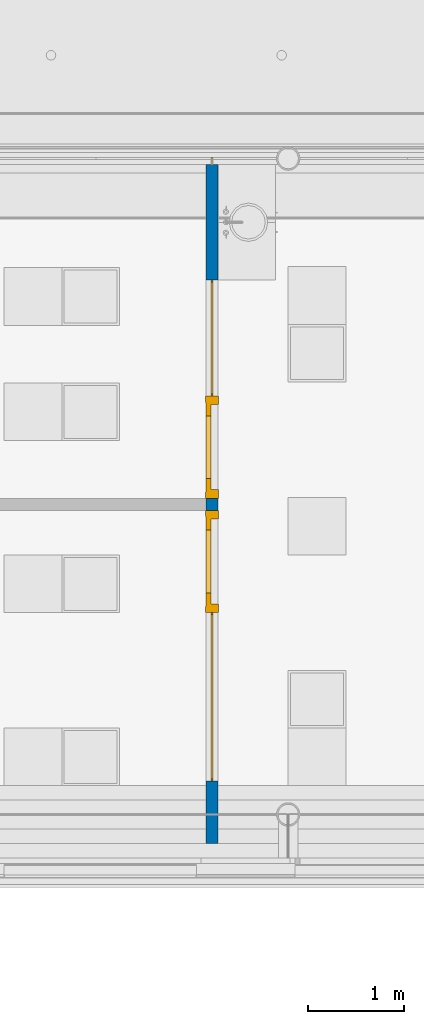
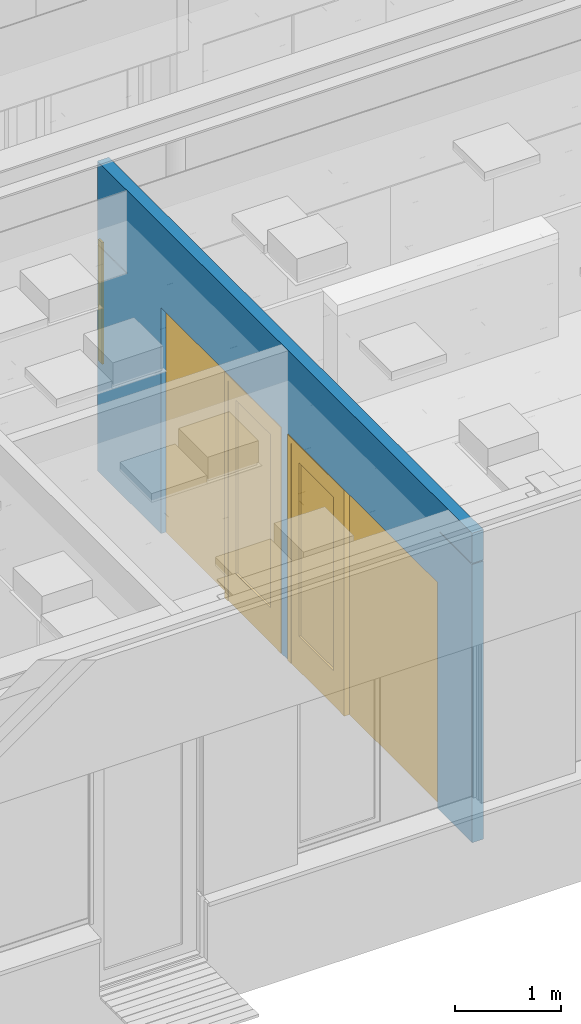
# One storey, part 41 of 347: 3 windows, 2 doors, 1 wall, 5 openings.
"""IFC2X3 building model written with IfcOpenShell, lengths in millimetres."""

from ifc_helpers import new_model, entity, si_unit, converted_unit, derived_unit, money_unit, direction, frame, origin_with_axes, place, context, subcontext, project, spatial, open_shell, faceted_brep, surface_model, source, transform, mapped, material, type_object, type_shapes, element, fill, save


model = new_model("IFC2X3")

# Units and contexts
model_context = context("Model", 3, precision=0.01, world=origin_with_axes(), true_north=direction((0.0, 1.0)))
plan_context = context("Plan", 3, precision=0.01, world=origin_with_axes(), true_north=direction((0.0, 1.0)))
body_context = subcontext(model_context, "Body", "Model", "MODEL_VIEW")
ifc_project = project(units=[si_unit("LENGTHUNIT", "METRE", prefix="MILLI"), si_unit("AREAUNIT", "SQUARE_METRE"), si_unit("VOLUMEUNIT", "CUBIC_METRE"), converted_unit("PLANEANGLEUNIT", "DEGREE", entity("IfcPlaneAngleMeasure", 0.0174532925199), si_unit("PLANEANGLEUNIT", "RADIAN"), dimensions=[0, 0, 0, 0, 0, 0, 0]), money_unit("EUR"), converted_unit("TIMEUNIT", "Year", entity("IfcTimeMeasure", 31556926.0), si_unit("TIMEUNIT", "SECOND"), dimensions=[0, 0, 1, 0, 0, 0, 0]), si_unit("MASSUNIT", "GRAM", prefix="KILO"), si_unit("THERMODYNAMICTEMPERATUREUNIT", "DEGREE_CELSIUS"), si_unit("LUMINOUSINTENSITYUNIT", "LUMEN"), si_unit("ENERGYUNIT", "JOULE", prefix="MEGA"), derived_unit("THERMALCONDUCTANCEUNIT", [(si_unit("POWERUNIT", "WATT"), 1), (si_unit("LENGTHUNIT", "METRE"), -1), (si_unit("THERMODYNAMICTEMPERATUREUNIT", "KELVIN"), -1)]), derived_unit("SPECIFICHEATCAPACITYUNIT", [(si_unit("ENERGYUNIT", "JOULE"), 1), (si_unit("MASSUNIT", "GRAM", prefix="KILO"), -1), (si_unit("THERMODYNAMICTEMPERATUREUNIT", "KELVIN"), -1)]), derived_unit("MASSDENSITYUNIT", [(si_unit("MASSUNIT", "GRAM", prefix="KILO"), 1), (si_unit("VOLUMEUNIT", "CUBIC_METRE"), -1)])], contexts=[model_context, plan_context])

# Site, building, storey
site_placement = place(None, origin_with_axes())
site = spatial("IfcSite", under=ifc_project, at=site_placement, Name="Site", CompositionType="ELEMENT")
building_placement = place(site_placement, origin_with_axes())
building = spatial("IfcBuilding", under=site, at=building_placement, Name="Naam gebouw", CompositionType="ELEMENT")
storey_placement = place(building_placement, origin_with_axes())
storey = spatial("IfcBuildingStorey", under=building, at=storey_placement, Name="begane grond", CompositionType="ELEMENT", Elevation=0.0)

# Wall, openings, windows, doors
ifc_material = material(Name="ALG - LICHTE SCHEIDINGSWAND")
wall_type = type_object("IfcWallType", Name="ALG LSW 125 125", PredefinedType="NOTDEFINED")
wall_placement = place(storey_placement, frame((17650.0, 12125.0, 0.0), z_axis=(0.0, 0.0, 1.0), x_axis=(0.0, -1.0, 0.0)))
wall = element("IfcWall", 1, at=wall_placement, inside=storey, type_object=wall_type, material=ifc_material, Name="22_GF 125 ECO DGS/2.75.3A", context=body_context, shape_type="Brep", body=[
    faceted_brep([(3660.0, 125.0, 0.0), (3535.0, 125.0, 0.0), (3535.0, 125.0, 2600.0), (2471.0, 125.0, 2600.0), (1262.5, 125.0, 2600.0), (1262.5, 125.0, 0.0), (62.5, 125.0, 0.0), (62.5, 125.0, 2600.0), (625.00002799, 125.0, 2600.0), (625.00002799, 125.0, 2612.0), (62.5, 125.0, 2612.0), (62.5, 125.0, 3560.0), (7125.00000221, 125.0, 3560.0), (7125.00002799, 125.0, 3212.0), (6525.00002799, 125.0, 3212.0), (6525.00002799, 125.0, 3200.0), (7125.00002799, 125.0, 3200.0), (7125.00000221, 125.0, 0.0), (6474.0, 125.0, 0.0), (6474.0, 125.0, 2600.0), (4724.0, 125.0, 2600.0), (3660.0, 125.0, 2600.0), (3660.0, 0.0, 0.0), (3535.0, 0.0, 0.0), (3535.0, 0.0, 2600.0), (2471.0, 0.0, 2600.0), (1262.5, 0.0, 2600.0), (1262.5, 0.0, 0.0), (62.5, 0.0, 0.0), (62.5, 0.0, 2600.0), (625.00002799, 0.0, 2600.0), (625.00002799, 0.0, 2612.0), (62.5, 0.0, 2612.0), (62.5, 0.0, 3560.0), (7125.00000221, 0.0, 3560.0), (7125.00002799, 0.0, 3212.0), (6525.00002799, 0.0, 3212.0), (6525.00002799, 0.0, 3200.0), (7125.00002799, 0.0, 3200.0), (7125.00000221, 0.0, 0.0), (6474.0, 0.0, 0.0), (6474.0, 0.0, 2600.0), (4724.0, 0.0, 2600.0), (3660.0, 0.0, 2600.0)], [[[0, 1, 2, 3, 4, 5, 6, 7, 8, 9, 10, 11, 12, 13, 14, 15, 16, 17, 18, 19, 20, 21]], [[22, 23, 1, 0]], [[24, 2, 1, 23]], [[24, 25, 3, 2]], [[4, 3, 25, 26]], [[27, 5, 4, 26]], [[28, 6, 5, 27]], [[29, 7, 6, 28]], [[8, 7, 29, 30]], [[9, 8, 30, 31]], [[32, 10, 9, 31]], [[10, 32, 33, 11]], [[33, 34, 12, 11]], [[35, 13, 12, 34]], [[14, 13, 35, 36]], [[15, 14, 36, 37]], [[16, 15, 37, 38]], [[16, 38, 39, 17]], [[39, 40, 18, 17]], [[18, 40, 41, 19]], [[42, 20, 19, 41]], [[21, 20, 42, 43]], [[0, 21, 43, 22]], [[25, 24, 23, 22, 43, 42, 41, 40, 39, 38, 37, 36, 35, 34, 33, 32, 31, 30, 29, 28, 27, 26]]]),
])
opening_1_placement = place(wall_placement, frame((5599.0, 0.0, 0.0), z_axis=(0.0, 0.0, 1.0), x_axis=(1.0, 0.0, 0.0)))
opening_1 = element("IfcOpeningElement", 2, at=opening_1_placement, cuts=wall, Name="32_10.05", context=body_context, shape_type="Brep", body=[
    faceted_brep([(-875.0, 72.5, 2600.0), (-875.0, 72.5, 0.0), (-875.0, -125.0, 0.0), (-875.0, -125.0, 2600.0), (875.0, 72.5, 2600.0), (875.0, 72.5, 0.0), (875.0, -125.0, 0.0), (875.0, -125.0, 2600.0)], [[[0, 1, 2, 3]], [[0, 4, 5, 1]], [[1, 5, 6, 2]], [[3, 2, 6, 7]], [[4, 0, 3, 7]], [[5, 4, 7, 6]]]),
    faceted_brep([(-875.0, 72.5, 0.0), (-875.0, 72.5, 2600.0), (-875.0, 250.0, 2600.0), (-875.0, 250.0, 0.0), (875.0, 72.5, 0.0), (875.0, 72.5, 2600.0), (875.0, 250.0, 2600.0), (875.0, 250.0, 0.0)], [[[0, 1, 2, 3]], [[0, 4, 5, 1]], [[1, 5, 6, 2]], [[3, 2, 6, 7]], [[4, 0, 3, 7]], [[5, 4, 7, 6]]]),
])
opening_2_placement = place(wall_placement, frame((26.25, 0.0, 1200.0), z_axis=(0.0, 0.0, 1.0), x_axis=(1.0, 0.0, 0.0)))
opening_2 = element("IfcOpeningElement", 3, at=opening_2_placement, cuts=wall, Name="31_11.13", context=body_context, shape_type="Brep", body=[
    faceted_brep([(36.25, 52.5, 1400.0), (36.25, 52.5, 0.0), (36.25, 250.0, 0.0), (36.25, 250.0, 1400.0), (-36.25, 52.5, 1400.0), (-36.25, 52.5, 0.0), (-36.25, 250.0, 0.0), (-36.25, 250.0, 1400.0)], [[[0, 1, 2, 3]], [[0, 4, 5, 1]], [[1, 5, 6, 2]], [[3, 2, 6, 7]], [[4, 0, 3, 7]], [[5, 4, 7, 6]]]),
    faceted_brep([(36.25, 52.5, 0.0), (36.25, 52.5, 1400.0), (36.25, -125.0, 1400.0), (36.25, -125.0, 0.0), (-36.25, 52.5, 0.0), (-36.25, 52.5, 1400.0), (-36.25, -125.0, 1400.0), (-36.25, -125.0, 0.0)], [[[0, 1, 2, 3]], [[0, 4, 5, 1]], [[1, 5, 6, 2]], [[3, 2, 6, 7]], [[4, 0, 3, 7]], [[5, 4, 7, 6]]]),
])
opening_3_placement = place(wall_placement, frame((1866.75, 0.0, 0.0), z_axis=(0.0, 0.0, 1.0), x_axis=(1.0, 0.0, 0.0)))
opening_3 = element("IfcOpeningElement", 4, at=opening_3_placement, cuts=wall, Name="32_10.19", context=body_context, shape_type="Brep", body=[
    faceted_brep([(604.25, 72.5, 0.0), (604.25, 72.5, 2600.0), (604.25, -125.0, 2600.0), (604.25, -125.0, 0.0), (-604.25, 72.5, 0.0), (-604.25, 72.5, 2600.0), (-604.25, -125.0, 2600.0), (-604.25, -125.0, 0.0)], [[[0, 1, 2, 3]], [[0, 4, 5, 1]], [[1, 5, 6, 2]], [[3, 2, 6, 7]], [[4, 0, 3, 7]], [[5, 4, 7, 6]]]),
    faceted_brep([(604.25, 72.5, 2600.0), (604.25, 72.5, 0.0), (604.25, 250.0, 0.0), (604.25, 250.0, 2600.0), (-604.25, 72.5, 2600.0), (-604.25, 72.5, 0.0), (-604.25, 250.0, 0.0), (-604.25, 250.0, 2600.0)], [[[0, 1, 2, 3]], [[0, 4, 5, 1]], [[1, 5, 6, 2]], [[3, 2, 6, 7]], [[4, 0, 3, 7]], [[5, 4, 7, 6]]]),
])
opening_4_placement = place(wall_placement, frame((4192.0, 0.0, 0.0), z_axis=(0.0, 0.0, 1.0), x_axis=(1.0, 0.0, 0.0)))
opening_4 = element("IfcOpeningElement", 5, at=opening_4_placement, cuts=wall, Name="32_02.01", context=body_context, shape_type="Brep", body=[
    faceted_brep([(-532.0, -125.0, 0.0), (-532.0, -125.0, 2600.0), (-532.0, 257.0, 2600.0), (-532.0, 257.0, 0.0), (532.0, -125.0, 0.0), (532.0, -125.0, 2600.0), (532.0, 257.0, 2600.0), (532.0, 257.0, 0.0)], [[[0, 1, 2, 3]], [[0, 4, 5, 1]], [[1, 5, 6, 2]], [[3, 2, 6, 7]], [[4, 0, 3, 7]], [[5, 4, 7, 6]]]),
])
opening_5_placement = place(wall_placement, frame((3003.0, 0.0, 0.0), z_axis=(0.0, 0.0, 1.0), x_axis=(1.0, 0.0, 0.0)))
opening_5 = element("IfcOpeningElement", 6, at=opening_5_placement, cuts=wall, Name="32_01.01", context=body_context, shape_type="Brep", body=[
    faceted_brep([(532.0, 257.0, 0.0), (532.0, 257.0, 2600.0), (532.0, -125.0, 2600.0), (532.0, -125.0, 0.0), (-532.0, 257.0, 0.0), (-532.0, 257.0, 2600.0), (-532.0, -125.0, 2600.0), (-532.0, -125.0, 0.0)], [[[0, 1, 2, 3]], [[0, 4, 5, 1]], [[1, 5, 6, 2]], [[3, 2, 6, 7]], [[4, 0, 3, 7]], [[5, 4, 7, 6]]]),
])
window_style = type_object("IfcWindowStyle", Name="R1 25", ConstructionType="NOTDEFINED", OperationType="SINGLE_PANEL", ParameterTakesPrecedence=False, Sizeable=False)
window_1_placement = place(opening_2_placement, frame((36.25, 0.0, 0.0), z_axis=(0.0, 0.0, 1.0), x_axis=(-1.0, 0.0, 0.0)))
window_1 = element("IfcWindow", 7, at=window_1_placement, inside=storey, type_object=window_style, Name="31_11.13", ObjectType="WINDOW", OverallHeight=1400.0, OverallWidth=72.5, context=body_context, shape_type="SurfaceModel", body=[
    faceted_brep([(52.5, -72.5, 1380.0), (72.5, -72.5, 1380.0), (72.5, -52.5, 1380.0), (52.5, -52.5, 1380.0), (52.5, -72.5, 20.0), (72.5, -72.5, 20.0), (72.5, -52.5, 20.0), (52.5, -52.5, 20.0)], [[[0, 1, 2, 3]], [[0, 4, 5, 1]], [[1, 5, 6, 2]], [[3, 2, 6, 7]], [[4, 0, 3, 7]], [[5, 4, 7, 6]]]),
    faceted_brep([(20.0, -72.5, 20.0), (0.0, -72.5, 20.0), (0.0, -52.5, 20.0), (20.0, -52.5, 20.0), (20.0, -72.5, 1380.0), (0.0, -72.5, 1380.0), (0.0, -52.5, 1380.0), (20.0, -52.5, 1380.0)], [[[0, 1, 2, 3]], [[0, 4, 5, 1]], [[1, 5, 6, 2]], [[3, 2, 6, 7]], [[4, 0, 3, 7]], [[5, 4, 7, 6]]]),
    faceted_brep([(52.5, -72.5, 20.0), (72.5, -72.5, 20.0), (72.5, -52.5, 20.0), (52.5, -52.5, 20.0), (20.0, -72.5, 20.0), (0.0, -72.5, 20.0), (0.0, -72.5, 0.0), (72.5, -72.5, 0.0), (72.5, -52.5, 0.0), (0.0, -52.5, 0.0), (0.0, -52.5, 20.0), (20.0, -52.5, 20.0)], [[[0, 1, 2, 3]], [[0, 4, 5, 6, 7, 1]], [[1, 7, 8, 2]], [[3, 2, 8, 9, 10, 11]], [[4, 0, 3, 11]], [[5, 4, 11, 10]], [[6, 5, 10, 9]], [[7, 6, 9, 8]]]),
    faceted_brep([(20.0, -72.5, 1380.0), (0.0, -72.5, 1380.0), (0.0, -52.5, 1380.0), (20.0, -52.5, 1380.0), (52.5, -72.5, 1380.0), (72.5, -72.5, 1380.0), (72.5, -72.5, 1400.0), (0.0, -72.5, 1400.0), (0.0, -52.5, 1400.0), (72.5, -52.5, 1400.0), (72.5, -52.5, 1380.0), (52.5, -52.5, 1380.0)], [[[0, 1, 2, 3]], [[0, 4, 5, 6, 7, 1]], [[1, 7, 8, 2]], [[3, 2, 8, 9, 10, 11]], [[4, 0, 3, 11]], [[5, 4, 11, 10]], [[6, 5, 10, 9]], [[7, 6, 9, 8]]]),
    surface_model("IfcShellBasedSurfaceModel", [(52.5, -72.5, 20.0), (52.5, -72.5, 1380.0), (20.0, -72.5, 1380.0), (20.0, -72.5, 20.0)], [open_shell([[[0, 1, 2, 3]]])]),
    surface_model("IfcShellBasedSurfaceModel", [(52.5, -52.5, 20.0), (20.0, -52.5, 20.0), (20.0, -52.5, 1380.0), (52.5, -52.5, 1380.0)], [open_shell([[[0, 1, 2, 3]]])]),
])
fill(opening_2, window_1)
window_2_placement = place(opening_3_placement, frame((604.25, 0.0, 0.0), z_axis=(0.0, 0.0, 1.0), x_axis=(-1.0, 0.0, 0.0)))
window_2 = element("IfcWindow", 8, at=window_2_placement, inside=storey, type_object=window_style, Name="32_10.19", ObjectType="WINDOW", OverallHeight=2600.0, OverallWidth=1208.5, context=body_context, shape_type="SurfaceModel", body=[
    faceted_brep([(1188.5, -72.5, 2580.0), (1208.5, -72.5, 2580.0), (1208.5, -52.5, 2580.0), (1188.5, -52.5, 2580.0), (1188.5, -72.5, 20.0), (1208.5, -72.5, 20.0), (1208.5, -52.5, 20.0), (1188.5, -52.5, 20.0)], [[[0, 1, 2, 3]], [[0, 4, 5, 1]], [[1, 5, 6, 2]], [[3, 2, 6, 7]], [[4, 0, 3, 7]], [[5, 4, 7, 6]]]),
    faceted_brep([(20.0, -72.5, 20.0), (0.0, -72.5, 20.0), (0.0, -52.5, 20.0), (20.0, -52.5, 20.0), (20.0, -72.5, 2580.0), (0.0, -72.5, 2580.0), (0.0, -52.5, 2580.0), (20.0, -52.5, 2580.0)], [[[0, 1, 2, 3]], [[0, 4, 5, 1]], [[1, 5, 6, 2]], [[3, 2, 6, 7]], [[4, 0, 3, 7]], [[5, 4, 7, 6]]]),
    faceted_brep([(1188.5, -72.5, 20.0), (1208.5, -72.5, 20.0), (1208.5, -52.5, 20.0), (1188.5, -52.5, 20.0), (20.0, -72.5, 20.0), (0.0, -72.5, 20.0), (0.0, -72.5, 0.0), (1208.5, -72.5, 0.0), (1208.5, -52.5, 0.0), (0.0, -52.5, 0.0), (0.0, -52.5, 20.0), (20.0, -52.5, 20.0)], [[[0, 1, 2, 3]], [[0, 4, 5, 6, 7, 1]], [[1, 7, 8, 2]], [[3, 2, 8, 9, 10, 11]], [[4, 0, 3, 11]], [[5, 4, 11, 10]], [[6, 5, 10, 9]], [[7, 6, 9, 8]]]),
    faceted_brep([(20.0, -72.5, 2580.0), (0.0, -72.5, 2580.0), (0.0, -52.5, 2580.0), (20.0, -52.5, 2580.0), (1188.5, -72.5, 2580.0), (1208.5, -72.5, 2580.0), (1208.5, -72.5, 2600.0), (0.0, -72.5, 2600.0), (0.0, -52.5, 2600.0), (1208.5, -52.5, 2600.0), (1208.5, -52.5, 2580.0), (1188.5, -52.5, 2580.0)], [[[0, 1, 2, 3]], [[0, 4, 5, 6, 7, 1]], [[1, 7, 8, 2]], [[3, 2, 8, 9, 10, 11]], [[4, 0, 3, 11]], [[5, 4, 11, 10]], [[6, 5, 10, 9]], [[7, 6, 9, 8]]]),
    surface_model("IfcShellBasedSurfaceModel", [(1188.5, -72.5, 20.0), (1188.5, -72.5, 2580.0), (20.0, -72.5, 2580.0), (20.0, -72.5, 20.0)], [open_shell([[[0, 1, 2, 3]]])]),
    surface_model("IfcShellBasedSurfaceModel", [(1188.5, -52.5, 20.0), (20.0, -52.5, 20.0), (20.0, -52.5, 2580.0), (1188.5, -52.5, 2580.0)], [open_shell([[[0, 1, 2, 3]]])]),
])
fill(opening_3, window_2)
door_style_1 = type_object("IfcDoorStyle", Name="D1 25", ConstructionType="NOTDEFINED", OperationType="SINGLE_SWING_LEFT", ParameterTakesPrecedence=False, Sizeable=False)
shared_shape_1 = source(origin_with_axes(), body_context, "Body", "SurfaceModel", [
    faceted_brep([(442.0, -60.0, 0.0), (442.0, -139.0, 0.0), (442.0, -139.0, 2510.0), (442.0, -60.0, 2510.0), (467.0, -60.0, 0.0), (467.0, 0.0, 0.0), (532.0, 0.0, 0.0), (532.0, -139.0, 0.0), (532.0, -139.0, 2510.0), (467.0, -60.0, 2510.0), (532.0, 0.0, 2510.0), (467.0, 0.0, 2510.0)], [[[0, 1, 2, 3]], [[4, 5, 6, 7, 1, 0]], [[1, 7, 8, 2]], [[9, 3, 2, 8, 10, 11]], [[9, 4, 0, 3]], [[11, 5, 4, 9]], [[11, 10, 6, 5]], [[6, 10, 8, 7]]]),
    faceted_brep([(-467.0, -60.0, 2510.0), (-467.0, 0.0, 2510.0), (-532.0, 0.0, 2510.0), (-532.0, -139.0, 2510.0), (-442.0, -139.0, 2510.0), (-442.0, -60.0, 2510.0), (-467.0, -60.0, 0.0), (-467.0, 0.0, 0.0), (-532.0, 0.0, 0.0), (-532.0, -139.0, 0.0), (-442.0, -139.0, 0.0), (-442.0, -60.0, 0.0)], [[[0, 1, 2, 3, 4, 5]], [[0, 6, 7, 1]], [[7, 8, 2, 1]], [[2, 8, 9, 3]], [[3, 9, 10, 4]], [[5, 4, 10, 11]], [[5, 11, 6, 0]], [[6, 11, 10, 9, 8, 7]]]),
    faceted_brep([(467.0, 0.0, 2535.0), (-467.0, 0.0, 2535.0), (-467.0, 0.0, 2510.0), (-532.0, 0.0, 2510.0), (-532.0, 0.0, 2600.0), (532.0, 0.0, 2600.0), (532.0, 0.0, 2510.0), (467.0, 0.0, 2510.0), (467.0, -60.0, 2535.0), (-467.0, -60.0, 2535.0), (-467.0, -60.0, 2510.0), (-442.0, -60.0, 2510.0), (-442.0, -139.0, 2510.0), (-532.0, -139.0, 2510.0), (-532.0, -139.0, 2600.0), (532.0, -139.0, 2600.0), (532.0, -139.0, 2510.0), (467.0, -60.0, 2510.0), (442.0, -139.0, 2510.0), (442.0, -60.0, 2510.0)], [[[0, 1, 2, 3, 4, 5, 6, 7]], [[0, 8, 9, 1]], [[1, 9, 10, 2]], [[10, 11, 12, 13, 3, 2]], [[4, 3, 13, 14]], [[5, 4, 14, 15]], [[6, 5, 15, 16]], [[17, 7, 6, 16, 18, 19]], [[7, 17, 8, 0]], [[10, 9, 8, 17, 19, 11]], [[19, 18, 12, 11]], [[12, 18, 16, 15, 14, 13]]]),
    faceted_brep([(-467.0, -6.0, 400.0), (-327.0, -6.0, 400.0), (-327.0, -60.0, 400.0), (-467.0, -60.0, 400.0), (-467.0, -6.0, 2395.0), (-327.0, -6.0, 2395.0), (-327.0, -60.0, 2395.0), (-467.0, -60.0, 2395.0)], [[[0, 1, 2, 3]], [[0, 4, 5, 1]], [[1, 5, 6, 2]], [[3, 2, 6, 7]], [[4, 0, 3, 7]], [[5, 4, 7, 6]]]),
    faceted_brep([(467.0, -6.0, 400.0), (467.0, -6.0, 2395.0), (467.0, -60.0, 2395.0), (467.0, -60.0, 400.0), (327.0, -6.0, 400.0), (327.0, -6.0, 2395.0), (327.0, -60.0, 2395.0), (327.0, -60.0, 400.0)], [[[0, 1, 2, 3]], [[0, 4, 5, 1]], [[1, 5, 6, 2]], [[3, 2, 6, 7]], [[4, 0, 3, 7]], [[5, 4, 7, 6]]]),
    faceted_brep([(-467.0, -6.0, 0.0), (467.0, -6.0, 0.0), (467.0, -60.0, 0.0), (-467.0, -60.0, 0.0), (-467.0, -6.0, 400.0), (-327.0, -6.0, 400.0), (327.0, -6.0, 400.0), (467.0, -6.0, 400.0), (467.0, -60.0, 400.0), (327.0, -60.0, 400.0), (-327.0, -60.0, 400.0), (-467.0, -60.0, 400.0)], [[[0, 1, 2, 3]], [[0, 4, 5, 6, 7, 1]], [[1, 7, 8, 2]], [[3, 2, 8, 9, 10, 11]], [[4, 0, 3, 11]], [[5, 4, 11, 10]], [[6, 5, 10, 9]], [[7, 6, 9, 8]]]),
    faceted_brep([(-467.0, -6.0, 2535.0), (-467.0, -6.0, 2395.0), (-467.0, -60.0, 2395.0), (-467.0, -60.0, 2535.0), (467.0, -6.0, 2535.0), (467.0, -6.0, 2395.0), (327.0, -6.0, 2395.0), (-327.0, -6.0, 2395.0), (-327.0, -60.0, 2395.0), (327.0, -60.0, 2395.0), (467.0, -60.0, 2395.0), (467.0, -60.0, 2535.0)], [[[0, 1, 2, 3]], [[0, 4, 5, 6, 7, 1]], [[1, 7, 8, 2]], [[3, 2, 8, 9, 10, 11]], [[4, 0, 3, 11]], [[5, 4, 11, 10]], [[6, 5, 10, 9]], [[7, 6, 9, 8]]]),
    surface_model("IfcShellBasedSurfaceModel", [(-327.0, -27.0, 400.0), (-327.0, -27.0, 2395.0), (327.0, -27.0, 2395.0), (327.0, -27.0, 400.0)], [open_shell([[[0, 1, 2, 3]]])]),
    surface_model("IfcShellBasedSurfaceModel", [(-327.0, -39.0, 400.0), (327.0, -39.0, 400.0), (327.0, -39.0, 2395.0), (-327.0, -39.0, 2395.0)], [open_shell([[[0, 1, 2, 3]]])]),
])
type_shapes(door_style_1, [shared_shape_1])
door_1_placement = place(opening_5_placement, frame((532.0, 0.0, 0.0), z_axis=(0.0, 0.0, 1.0), x_axis=(-1.0, 0.0, 0.0)))
door_1 = element("IfcDoor", 9, at=door_1_placement, inside=storey, type_object=door_style_1, Name="32_01.01", ObjectType="DOOR", OverallHeight=2600.0, OverallWidth=1064.0, context=body_context, shape_type="MappedRepresentation", body=[
    mapped(shared_shape_1, transform((532.0, 7.0, 0.0))),
])
fill(opening_5, door_1)
shared_shape_2 = source(origin_with_axes(), body_context, "Body", "SurfaceModel", [
    faceted_brep([(855.0, -20.0, 2580.0), (875.0, -20.0, 2580.0), (875.0, 0.0, 2580.0), (855.0, 0.0, 2580.0), (855.0, -20.0, 20.0), (875.0, -20.0, 20.0), (875.0, 0.0, 20.0), (855.0, 0.0, 20.0)], [[[0, 1, 2, 3]], [[0, 4, 5, 1]], [[1, 5, 6, 2]], [[3, 2, 6, 7]], [[4, 0, 3, 7]], [[5, 4, 7, 6]]]),
    faceted_brep([(-855.0, -20.0, 20.0), (-875.0, -20.0, 20.0), (-875.0, 0.0, 20.0), (-855.0, 0.0, 20.0), (-855.0, -20.0, 2580.0), (-875.0, -20.0, 2580.0), (-875.0, 0.0, 2580.0), (-855.0, 0.0, 2580.0)], [[[0, 1, 2, 3]], [[0, 4, 5, 1]], [[1, 5, 6, 2]], [[3, 2, 6, 7]], [[4, 0, 3, 7]], [[5, 4, 7, 6]]]),
    faceted_brep([(855.0, -20.0, 20.0), (875.0, -20.0, 20.0), (875.0, 0.0, 20.0), (855.0, 0.0, 20.0), (-855.0, -20.0, 20.0), (-875.0, -20.0, 20.0), (-875.0, -20.0, 0.0), (875.0, -20.0, 0.0), (875.0, 0.0, 0.0), (-875.0, 0.0, 0.0), (-875.0, 0.0, 20.0), (-855.0, 0.0, 20.0)], [[[0, 1, 2, 3]], [[0, 4, 5, 6, 7, 1]], [[1, 7, 8, 2]], [[3, 2, 8, 9, 10, 11]], [[4, 0, 3, 11]], [[5, 4, 11, 10]], [[6, 5, 10, 9]], [[7, 6, 9, 8]]]),
    faceted_brep([(-855.0, -20.0, 2580.0), (-875.0, -20.0, 2580.0), (-875.0, 0.0, 2580.0), (-855.0, 0.0, 2580.0), (855.0, -20.0, 2580.0), (875.0, -20.0, 2580.0), (875.0, -20.0, 2600.0), (-875.0, -20.0, 2600.0), (-875.0, 0.0, 2600.0), (875.0, 0.0, 2600.0), (875.0, 0.0, 2580.0), (855.0, 0.0, 2580.0)], [[[0, 1, 2, 3]], [[0, 4, 5, 6, 7, 1]], [[1, 7, 8, 2]], [[3, 2, 8, 9, 10, 11]], [[4, 0, 3, 11]], [[5, 4, 11, 10]], [[6, 5, 10, 9]], [[7, 6, 9, 8]]]),
    surface_model("IfcShellBasedSurfaceModel", [(855.0, -20.0, 20.0), (855.0, -20.0, 2580.0), (-855.0, -20.0, 2580.0), (-855.0, -20.0, 20.0)], [open_shell([[[0, 1, 2, 3]]])]),
    surface_model("IfcShellBasedSurfaceModel", [(855.0, 0.0, 20.0), (-855.0, 0.0, 20.0), (-855.0, 0.0, 2580.0), (855.0, 0.0, 2580.0)], [open_shell([[[0, 1, 2, 3]]])]),
])
type_shapes(window_style, [shared_shape_2])
window_3_placement = place(opening_1_placement, frame((-875.0, 0.0, 0.0), z_axis=(0.0, 0.0, 1.0), x_axis=(1.0, 0.0, 0.0)))
window_3 = element("IfcWindow", 10, at=window_3_placement, inside=storey, type_object=window_style, Name="32_10.05", ObjectType="WINDOW", OverallHeight=2600.0, OverallWidth=1750.0, context=body_context, shape_type="MappedRepresentation", body=[
    mapped(shared_shape_2, transform((875.0, 72.5, 0.0))),
])
fill(opening_1, window_3)
door_style_2 = type_object("IfcDoorStyle", Name="D1 25", ConstructionType="NOTDEFINED", OperationType="SINGLE_SWING_RIGHT", ParameterTakesPrecedence=False, Sizeable=False)
shared_shape_3 = source(origin_with_axes(), body_context, "Body", "SurfaceModel", [
    faceted_brep([(-442.0, -60.0, 0.0), (-442.0, -60.0, 2510.0), (-442.0, -139.0, 2510.0), (-442.0, -139.0, 0.0), (-467.0, -60.0, 2510.0), (-467.0, -60.0, 0.0), (-467.0, 0.0, 2510.0), (-532.0, 0.0, 2510.0), (-532.0, -139.0, 2510.0), (-532.0, -139.0, 0.0), (-532.0, 0.0, 0.0), (-467.0, 0.0, 0.0)], [[[0, 1, 2, 3]], [[4, 1, 0, 5]], [[4, 6, 7, 8, 2, 1]], [[3, 2, 8, 9]], [[5, 0, 3, 9, 10, 11]], [[6, 4, 5, 11]], [[6, 11, 10, 7]], [[10, 9, 8, 7]]]),
    faceted_brep([(467.0, -60.0, 2510.0), (442.0, -60.0, 2510.0), (442.0, -139.0, 2510.0), (532.0, -139.0, 2510.0), (532.0, 0.0, 2510.0), (467.0, 0.0, 2510.0), (467.0, -60.0, 0.0), (442.0, -60.0, 0.0), (442.0, -139.0, 0.0), (532.0, -139.0, 0.0), (532.0, 0.0, 0.0), (467.0, 0.0, 0.0)], [[[0, 1, 2, 3, 4, 5]], [[1, 0, 6, 7]], [[1, 7, 8, 2]], [[3, 2, 8, 9]], [[4, 3, 9, 10]], [[11, 5, 4, 10]], [[0, 5, 11, 6]], [[6, 11, 10, 9, 8, 7]]]),
    faceted_brep([(-467.0, 0.0, 2535.0), (-467.0, 0.0, 2510.0), (-532.0, 0.0, 2510.0), (-532.0, 0.0, 2600.0), (532.0, 0.0, 2600.0), (532.0, 0.0, 2510.0), (467.0, 0.0, 2510.0), (467.0, 0.0, 2535.0), (-467.0, -60.0, 2535.0), (-467.0, -60.0, 2510.0), (-442.0, -60.0, 2510.0), (-442.0, -139.0, 2510.0), (-532.0, -139.0, 2510.0), (-532.0, -139.0, 2600.0), (532.0, -139.0, 2600.0), (532.0, -139.0, 2510.0), (467.0, -60.0, 2510.0), (442.0, -139.0, 2510.0), (442.0, -60.0, 2510.0), (467.0, -60.0, 2535.0)], [[[0, 1, 2, 3, 4, 5, 6, 7]], [[1, 0, 8, 9]], [[9, 10, 11, 12, 2, 1]], [[2, 12, 13, 3]], [[3, 13, 14, 4]], [[4, 14, 15, 5]], [[16, 6, 5, 15, 17, 18]], [[7, 6, 16, 19]], [[0, 7, 19, 8]], [[16, 18, 10, 9, 8, 19]], [[10, 18, 17, 11]], [[17, 15, 14, 13, 12, 11]]]),
    faceted_brep([(467.0, -6.0, 400.0), (467.0, -60.0, 400.0), (327.0, -60.0, 400.0), (327.0, -6.0, 400.0), (467.0, -6.0, 2395.0), (467.0, -60.0, 2395.0), (327.0, -60.0, 2395.0), (327.0, -6.0, 2395.0)], [[[0, 1, 2, 3]], [[4, 5, 1, 0]], [[1, 5, 6, 2]], [[3, 2, 6, 7]], [[0, 3, 7, 4]], [[7, 6, 5, 4]]]),
    faceted_brep([(-467.0, -6.0, 400.0), (-467.0, -60.0, 400.0), (-467.0, -60.0, 2395.0), (-467.0, -6.0, 2395.0), (-327.0, -6.0, 400.0), (-327.0, -60.0, 400.0), (-327.0, -60.0, 2395.0), (-327.0, -6.0, 2395.0)], [[[0, 1, 2, 3]], [[4, 5, 1, 0]], [[1, 5, 6, 2]], [[3, 2, 6, 7]], [[0, 3, 7, 4]], [[7, 6, 5, 4]]]),
    faceted_brep([(467.0, -6.0, 0.0), (467.0, -60.0, 0.0), (-467.0, -60.0, 0.0), (-467.0, -6.0, 0.0), (467.0, -6.0, 400.0), (467.0, -60.0, 400.0), (327.0, -60.0, 400.0), (-327.0, -60.0, 400.0), (-467.0, -60.0, 400.0), (-467.0, -6.0, 400.0), (-327.0, -6.0, 400.0), (327.0, -6.0, 400.0)], [[[0, 1, 2, 3]], [[4, 5, 1, 0]], [[1, 5, 6, 7, 8, 2]], [[3, 2, 8, 9]], [[0, 3, 9, 10, 11, 4]], [[11, 6, 5, 4]], [[10, 7, 6, 11]], [[9, 8, 7, 10]]]),
    faceted_brep([(467.0, -6.0, 2535.0), (467.0, -60.0, 2535.0), (467.0, -60.0, 2395.0), (467.0, -6.0, 2395.0), (-467.0, -6.0, 2535.0), (-467.0, -60.0, 2535.0), (-467.0, -60.0, 2395.0), (-327.0, -60.0, 2395.0), (327.0, -60.0, 2395.0), (327.0, -6.0, 2395.0), (-327.0, -6.0, 2395.0), (-467.0, -6.0, 2395.0)], [[[0, 1, 2, 3]], [[4, 5, 1, 0]], [[1, 5, 6, 7, 8, 2]], [[3, 2, 8, 9]], [[0, 3, 9, 10, 11, 4]], [[11, 6, 5, 4]], [[10, 7, 6, 11]], [[9, 8, 7, 10]]]),
    surface_model("IfcShellBasedSurfaceModel", [(327.0, -27.0, 400.0), (-327.0, -27.0, 400.0), (-327.0, -27.0, 2395.0), (327.0, -27.0, 2395.0)], [open_shell([[[0, 1, 2, 3]]])]),
    surface_model("IfcShellBasedSurfaceModel", [(327.0, -39.0, 400.0), (327.0, -39.0, 2395.0), (-327.0, -39.0, 2395.0), (-327.0, -39.0, 400.0)], [open_shell([[[0, 1, 2, 3]]])]),
])
type_shapes(door_style_2, [shared_shape_3])
door_2_placement = place(opening_4_placement, frame((532.0, 0.0, 0.0), z_axis=(0.0, 0.0, 1.0), x_axis=(-1.0, 0.0, 0.0)))
door_2 = element("IfcDoor", 11, at=door_2_placement, inside=storey, type_object=door_style_2, Name="32_02.01", ObjectType="DOOR", OverallHeight=2600.0, OverallWidth=1064.0, context=body_context, shape_type="MappedRepresentation", body=[
    mapped(shared_shape_3, transform((532.0, 7.0, 0.0))),
])
fill(opening_4, door_2)

save(model, "model.ifc")
